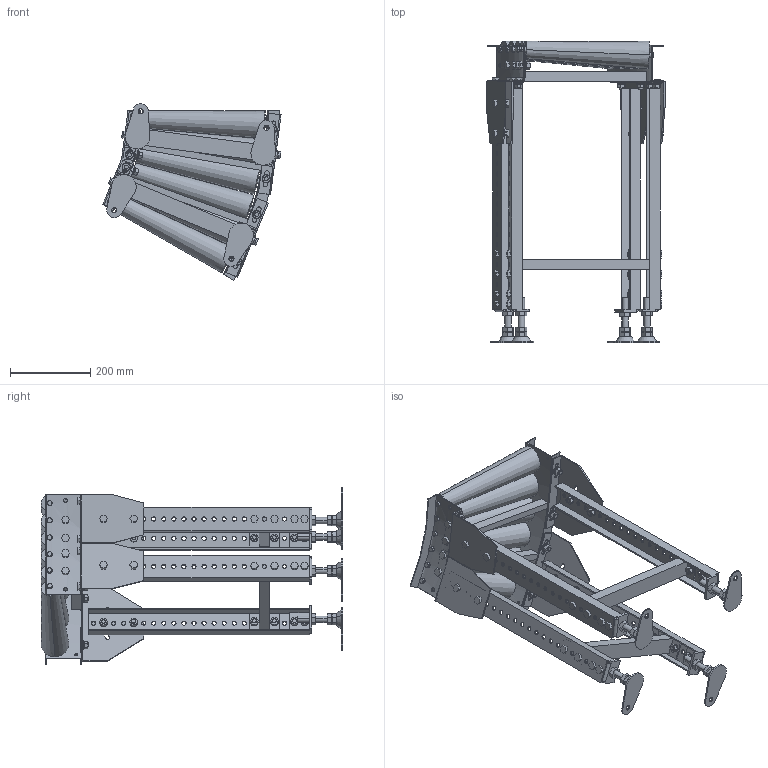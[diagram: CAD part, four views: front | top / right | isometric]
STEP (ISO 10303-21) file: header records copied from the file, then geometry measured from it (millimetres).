
FILE_DESCRIPTION (( 'STEP AP214' ), '1' );
FILE_NAME ('MRT-C5-300-50-30.STEP', '2022-09-27T09:12:51', ( '' ), ( '' ), 'SwSTEP 2.0', 'SolidWorks 2017', '' );
FILE_SCHEMA (( 'AUTOMOTIVE_DESIGN' ));
Length unit declared in the file: millimetre
Products named in the file (1): MRT-C5-300-50-30
Bounding box: 443.05 x 750 x 439.18 mm (x, y, z)
Volume: 7419925 mm3; surface area: 1504945 mm2
Topology: 19 solids, 41 shells, 1979 faces, 4730 edges, 2972 vertices
Faces by surface type: plane 1453, cylinder 506, cone 20
Entity records: 81801 total; most frequent: CARTESIAN_POINT 12570, DIRECTION 10106, ORIENTED_EDGE 9460, EDGE_CURVE 4730, AXIS2_PLACEMENT_3D 3496, LINE 3114, VECTOR 3114, VERTEX_POINT 2972
